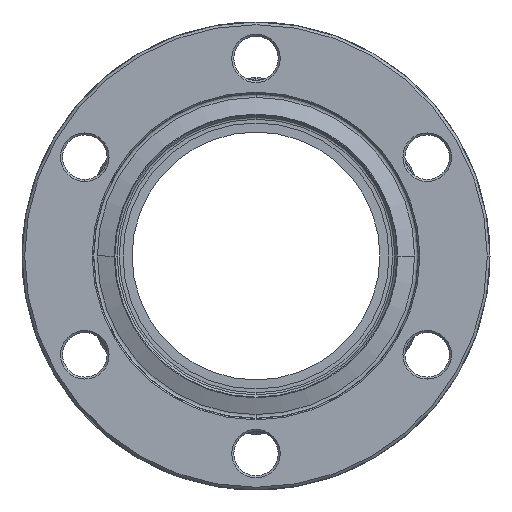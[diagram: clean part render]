
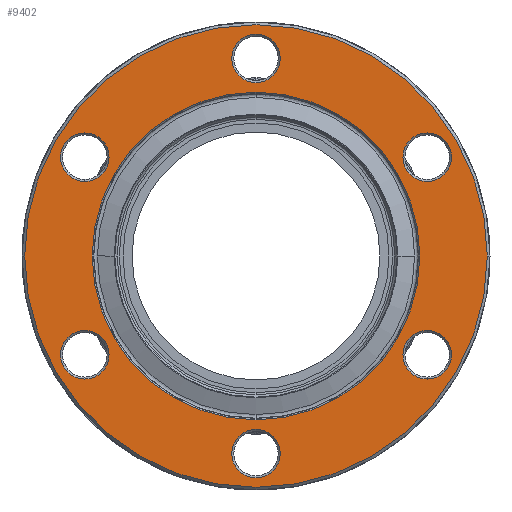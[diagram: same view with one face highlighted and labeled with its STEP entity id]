
A CAD part, left-side view. The second image highlights one B-rep face of the part: STEP entity #9402.
In plain terms, the highlighted planar face has unit normal (-1, 0, 0).
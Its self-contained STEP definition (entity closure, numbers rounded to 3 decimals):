
#2176=CARTESIAN_POINT('',(-242.4,24.325,0.));
#2177=VERTEX_POINT('',#2176);
#2193=CARTESIAN_POINT('',(-242.4,-24.325,0.));
#2194=VERTEX_POINT('',#2193);
#2201=CARTESIAN_POINT('',(-242.4,0.,0.));
#2202=DIRECTION('',(-1.0,0.0,0.0));
#2203=DIRECTION('',(0.0,1.0,0.0));
#2204=AXIS2_PLACEMENT_3D('',#2201,#2202,#2203);
#2205=CIRCLE('',#2204,24.325);
#2206=EDGE_CURVE('',#2194,#2177,#2205,.T.);
#2325=CARTESIAN_POINT('',(-242.4,-34.35,0.));
#2326=VERTEX_POINT('',#2325);
#2340=CARTESIAN_POINT('',(-242.4,34.35,0.));
#2341=VERTEX_POINT('',#2340);
#2348=CARTESIAN_POINT('',(-242.4,0.,0.));
#2349=DIRECTION('',(1.0,0.0,0.0));
#2350=DIRECTION('',(0.0,-1.0,0.0));
#2351=AXIS2_PLACEMENT_3D('',#2348,#2349,#2350);
#2352=CIRCLE('',#2351,34.35);
#2353=EDGE_CURVE('',#2341,#2326,#2352,.T.);
#2365=CARTESIAN_POINT('',(-242.4,25.418,11.075));
#2366=VERTEX_POINT('',#2365);
#2382=CARTESIAN_POINT('',(-242.4,25.418,18.275));
#2383=VERTEX_POINT('',#2382);
#2390=CARTESIAN_POINT('',(-242.4,25.418,14.675));
#2391=DIRECTION('',(-1.0,0.0,0.0));
#2392=DIRECTION('',(0.0,0.0,-1.0));
#2393=AXIS2_PLACEMENT_3D('',#2390,#2391,#2392);
#2394=CIRCLE('',#2393,3.6);
#2395=EDGE_CURVE('',#2383,#2366,#2394,.T.);
#2504=CARTESIAN_POINT('',(-242.4,22.3,-16.475));
#2505=VERTEX_POINT('',#2504);
#2521=CARTESIAN_POINT('',(-242.4,28.536,-12.875));
#2522=VERTEX_POINT('',#2521);
#2529=CARTESIAN_POINT('',(-242.4,25.418,-14.675));
#2530=DIRECTION('',(-1.0,0.,0.));
#2531=DIRECTION('',(0.,-0.866,-0.5));
#2532=AXIS2_PLACEMENT_3D('',#2529,#2530,#2531);
#2533=CIRCLE('',#2532,3.6);
#2534=EDGE_CURVE('',#2522,#2505,#2533,.T.);
#2643=CARTESIAN_POINT('',(-242.4,-3.118,-27.55));
#2644=VERTEX_POINT('',#2643);
#2660=CARTESIAN_POINT('',(-242.4,3.118,-31.15));
#2661=VERTEX_POINT('',#2660);
#2668=CARTESIAN_POINT('',(-242.4,0.,-29.35));
#2669=DIRECTION('',(-1.,0.,0.));
#2670=DIRECTION('',(0.,-0.866,0.5));
#2671=AXIS2_PLACEMENT_3D('',#2668,#2669,#2670);
#2672=CIRCLE('',#2671,3.6);
#2673=EDGE_CURVE('',#2661,#2644,#2672,.T.);
#2782=CARTESIAN_POINT('',(-242.4,-25.418,-11.075));
#2783=VERTEX_POINT('',#2782);
#2799=CARTESIAN_POINT('',(-242.4,-25.418,-18.275));
#2800=VERTEX_POINT('',#2799);
#2807=CARTESIAN_POINT('',(-242.4,-25.418,-14.675));
#2808=DIRECTION('',(-1.0,0.0,0.0));
#2809=DIRECTION('',(0.0,0.0,1.0));
#2810=AXIS2_PLACEMENT_3D('',#2807,#2808,#2809);
#2811=CIRCLE('',#2810,3.6);
#2812=EDGE_CURVE('',#2800,#2783,#2811,.T.);
#2921=CARTESIAN_POINT('',(-242.4,-22.3,16.475));
#2922=VERTEX_POINT('',#2921);
#2938=CARTESIAN_POINT('',(-242.4,-28.536,12.875));
#2939=VERTEX_POINT('',#2938);
#2946=CARTESIAN_POINT('',(-242.4,-25.418,14.675));
#2947=DIRECTION('',(-1.,0.,0.));
#2948=DIRECTION('',(0.,0.866,0.5));
#2949=AXIS2_PLACEMENT_3D('',#2946,#2947,#2948);
#2950=CIRCLE('',#2949,3.6);
#2951=EDGE_CURVE('',#2939,#2922,#2950,.T.);
#3060=CARTESIAN_POINT('',(-242.4,3.118,27.55));
#3061=VERTEX_POINT('',#3060);
#3077=CARTESIAN_POINT('',(-242.4,-3.118,31.15));
#3078=VERTEX_POINT('',#3077);
#3085=CARTESIAN_POINT('',(-242.4,0.,29.35));
#3086=DIRECTION('',(-1.0,0.,0.));
#3087=DIRECTION('',(0.,0.866,-0.5));
#3088=AXIS2_PLACEMENT_3D('',#3085,#3086,#3087);
#3089=CIRCLE('',#3088,3.6);
#3090=EDGE_CURVE('',#3078,#3061,#3089,.T.);
#9311=CARTESIAN_POINT('',(-242.4,0.,29.35));
#9312=DIRECTION('',(-1.0,0.,0.));
#9313=DIRECTION('',(0.,0.866,-0.5));
#9314=AXIS2_PLACEMENT_3D('',#9311,#9312,#9313);
#9315=CIRCLE('',#9314,3.6);
#9316=EDGE_CURVE('',#3061,#3078,#9315,.T.);
#9323=CARTESIAN_POINT('',(-242.4,29.537,0.));
#9324=DIRECTION('',(-1.0,0.0,0.0));
#9325=DIRECTION('',(0.0,0.0,1.0));
#9326=AXIS2_PLACEMENT_3D('',#9323,#9324,#9325);
#9327=PLANE('',#9326);
#9328=ORIENTED_EDGE('',*,*,#2353,.F.);
#9329=CARTESIAN_POINT('',(-242.4,0.,0.));
#9330=DIRECTION('',(1.0,0.0,0.0));
#9331=DIRECTION('',(0.0,-1.0,0.0));
#9332=AXIS2_PLACEMENT_3D('',#9329,#9330,#9331);
#9333=CIRCLE('',#9332,34.35);
#9334=EDGE_CURVE('',#2326,#2341,#9333,.T.);
#9335=ORIENTED_EDGE('',*,*,#9334,.F.);
#9336=EDGE_LOOP('',(#9328,#9335));
#9337=FACE_OUTER_BOUND('',#9336,.T.);
#9338=CARTESIAN_POINT('',(-242.4,0.,0.));
#9339=DIRECTION('',(-1.0,0.0,0.0));
#9340=DIRECTION('',(0.0,1.0,0.0));
#9341=AXIS2_PLACEMENT_3D('',#9338,#9339,#9340);
#9342=CIRCLE('',#9341,24.325);
#9343=EDGE_CURVE('',#2177,#2194,#9342,.T.);
#9344=ORIENTED_EDGE('',*,*,#9343,.F.);
#9345=ORIENTED_EDGE('',*,*,#2206,.F.);
#9346=EDGE_LOOP('',(#9344,#9345));
#9347=FACE_BOUND('',#9346,.T.);
#9348=ORIENTED_EDGE('',*,*,#2951,.F.);
#9349=CARTESIAN_POINT('',(-242.4,-25.418,14.675));
#9350=DIRECTION('',(-1.,0.,0.));
#9351=DIRECTION('',(0.,0.866,0.5));
#9352=AXIS2_PLACEMENT_3D('',#9349,#9350,#9351);
#9353=CIRCLE('',#9352,3.6);
#9354=EDGE_CURVE('',#2922,#2939,#9353,.T.);
#9355=ORIENTED_EDGE('',*,*,#9354,.F.);
#9356=EDGE_LOOP('',(#9348,#9355));
#9357=FACE_BOUND('',#9356,.T.);
#9358=ORIENTED_EDGE('',*,*,#2673,.F.);
#9359=CARTESIAN_POINT('',(-242.4,0.,-29.35));
#9360=DIRECTION('',(-1.,0.,0.));
#9361=DIRECTION('',(0.,-0.866,0.5));
#9362=AXIS2_PLACEMENT_3D('',#9359,#9360,#9361);
#9363=CIRCLE('',#9362,3.6);
#9364=EDGE_CURVE('',#2644,#2661,#9363,.T.);
#9365=ORIENTED_EDGE('',*,*,#9364,.F.);
#9366=EDGE_LOOP('',(#9358,#9365));
#9367=FACE_BOUND('',#9366,.T.);
#9368=ORIENTED_EDGE('',*,*,#2395,.F.);
#9369=CARTESIAN_POINT('',(-242.4,25.418,14.675));
#9370=DIRECTION('',(-1.0,0.0,0.0));
#9371=DIRECTION('',(0.0,0.0,-1.0));
#9372=AXIS2_PLACEMENT_3D('',#9369,#9370,#9371);
#9373=CIRCLE('',#9372,3.6);
#9374=EDGE_CURVE('',#2366,#2383,#9373,.T.);
#9375=ORIENTED_EDGE('',*,*,#9374,.F.);
#9376=EDGE_LOOP('',(#9368,#9375));
#9377=FACE_BOUND('',#9376,.T.);
#9378=ORIENTED_EDGE('',*,*,#2534,.F.);
#9379=CARTESIAN_POINT('',(-242.4,25.418,-14.675));
#9380=DIRECTION('',(-1.0,0.,0.));
#9381=DIRECTION('',(0.,-0.866,-0.5));
#9382=AXIS2_PLACEMENT_3D('',#9379,#9380,#9381);
#9383=CIRCLE('',#9382,3.6);
#9384=EDGE_CURVE('',#2505,#2522,#9383,.T.);
#9385=ORIENTED_EDGE('',*,*,#9384,.F.);
#9386=EDGE_LOOP('',(#9378,#9385));
#9387=FACE_BOUND('',#9386,.T.);
#9388=ORIENTED_EDGE('',*,*,#2812,.F.);
#9389=CARTESIAN_POINT('',(-242.4,-25.418,-14.675));
#9390=DIRECTION('',(-1.0,0.0,0.0));
#9391=DIRECTION('',(0.0,0.0,1.0));
#9392=AXIS2_PLACEMENT_3D('',#9389,#9390,#9391);
#9393=CIRCLE('',#9392,3.6);
#9394=EDGE_CURVE('',#2783,#2800,#9393,.T.);
#9395=ORIENTED_EDGE('',*,*,#9394,.F.);
#9396=EDGE_LOOP('',(#9388,#9395));
#9397=FACE_BOUND('',#9396,.T.);
#9398=ORIENTED_EDGE('',*,*,#3090,.F.);
#9399=ORIENTED_EDGE('',*,*,#9316,.F.);
#9400=EDGE_LOOP('',(#9398,#9399));
#9401=FACE_BOUND('',#9400,.T.);
#9402=ADVANCED_FACE('',(#9337,#9347,#9357,#9367,#9377,#9387,#9397,#9401),#9327,.T.);
